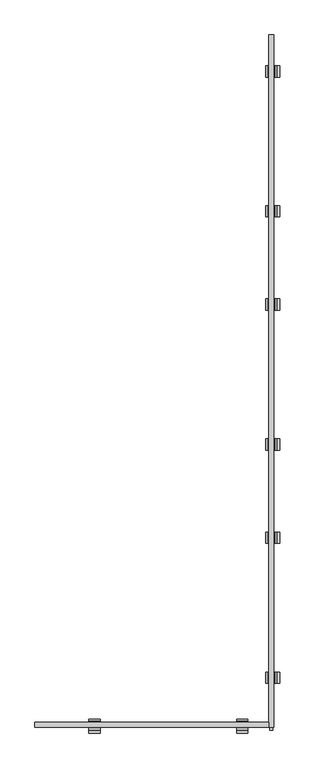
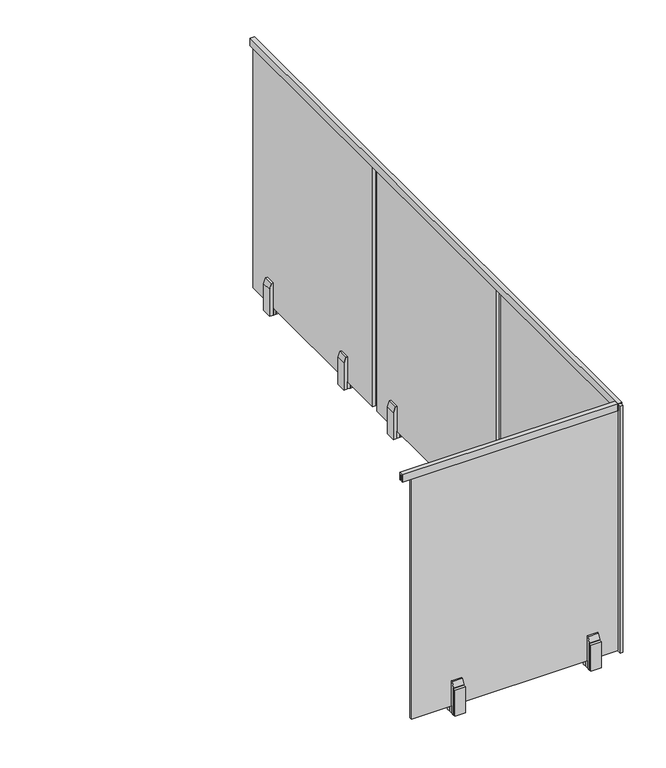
"""IFC4 building model written with IfcOpenShell, lengths in millimetres: railing geometry, VIVA-VISIO-Glass-Steel Fascia Mount-Straight."""

from ifc_helpers import new_model, si_unit, frame, origin, place, context, project, spatial, polyline, outline, extrude, source, transform, mapped, element, save


def railing_009aba57(model_context):
    return source(origin(), model_context, "Body", "SweptSolid", [
        extrude(outline(polyline([(-11584.626208, 4140.2), (-11562.8973017, 4140.2), (-11562.8973017, 4102.1), (-11567.4117549, 4102.1), (-11567.4117549, 4136.39), (-11580.1117549, 4136.39), (-11580.1117549, 4102.1), (-11584.626208, 4102.1), (-11584.626208, 4140.2)])), frame((30452.8112561, 0.0, 0.0), z_axis=(1.0, 0.0, 0.0), x_axis=(0.0, 1.0, 0.0)), (0.0, 0.0, 1.0), 1055.9355469),
        extrude(outline(polyline([(4140.2, 31530.4757092), (4140.2, 31508.7468029), (4102.1, 31508.7468029), (4102.1, 31513.2612561), (4136.39, 31513.2612561), (4136.39, 31525.9612561), (4102.1, 31525.9612561), (4102.1, 31530.4757092), (4140.2, 31530.4757092)])), frame((0.0, -11584.626208, 0.0), z_axis=(0.0, 1.0, 0.0), x_axis=(0.0, 0.0, 1.0)), (0.0, 0.0, 1.0), 3122.3644531),
        extrude(outline(polyline([(31557.7112561, -8652.0404935), (31545.0112561, -8652.0404935), (31545.0112561, -8601.2404935), (31557.7112561, -8601.2404935), (31557.7112561, -8652.0404935)])), frame((0.0, 0.0, 2821.0268247), z_axis=(0.0, 0.0, 1.0), x_axis=(1.0, 0.0, 0.0)), (0.0, 0.0, 1.0), 135.5680003),
        extrude(outline(polyline([(31525.9612561, -8652.0404935), (31513.2612561, -8652.0404935), (31513.2612561, -8601.2404935), (31525.9612561, -8601.2404935), (31525.9612561, -8652.0404935)])), frame((0.0, 0.0, 2818.5202907), z_axis=(0.0, 0.0, 1.0), x_axis=(1.0, 0.0, 0.0)), (0.0, 0.0, 1.0), 36.5125),
        extrude(outline(polyline([(2818.5202907, 31545.0112561), (2958.2202907, 31545.0112561), (2985.2077907, 31533.8987561), (2985.2077907, 31525.9612561), (2818.5202907, 31525.9612561), (2818.5202907, 31545.0112561)])), frame((0.0, -8652.0404935, 0.0), z_axis=(0.0, 1.0, 0.0), x_axis=(0.0, 0.0, 1.0)), (0.0, 0.0, 1.0), 50.8),
        extrude(outline(polyline([(2818.5202907, 31494.2112561), (2818.5202907, 31513.2612561), (2985.2077907, 31513.2612561), (2985.2077907, 31505.3237561), (2958.2202907, 31494.2112561), (2818.5202907, 31494.2112561)])), frame((0.0, -8652.0404935, 0.0), z_axis=(0.0, 1.0, 0.0), x_axis=(0.0, 0.0, 1.0)), (0.0, 0.0, 1.0), 50.8),
        extrude(outline(polyline([(31525.9612561, -9495.8703749), (31513.2612561, -9495.8703749), (31513.2612561, -8479.8703749), (31525.9612561, -8479.8703749), (31525.9612561, -9495.8703749)])), frame((0.0, 0.0, 2855.0362), z_axis=(0.0, 0.0, 1.0), x_axis=(1.0, 0.0, 0.0)), (0.0, 0.0, 1.0), 1279.7663),
        extrude(outline(polyline([(31557.7112561, -9283.2304935), (31545.0112561, -9283.2304935), (31545.0112561, -9232.4304935), (31557.7112561, -9232.4304935), (31557.7112561, -9283.2304935)])), frame((0.0, 0.0, 2821.0268247), z_axis=(0.0, 0.0, 1.0), x_axis=(1.0, 0.0, 0.0)), (0.0, 0.0, 1.0), 135.5680003),
        extrude(outline(polyline([(31525.9612561, -9283.2304935), (31513.2612561, -9283.2304935), (31513.2612561, -9232.4304935), (31525.9612561, -9232.4304935), (31525.9612561, -9283.2304935)])), frame((0.0, 0.0, 2818.5202907), z_axis=(0.0, 0.0, 1.0), x_axis=(1.0, 0.0, 0.0)), (0.0, 0.0, 1.0), 36.5125),
        extrude(outline(polyline([(2818.5202907, 31545.0112561), (2958.2202907, 31545.0112561), (2985.2077907, 31533.8987561), (2985.2077907, 31525.9612561), (2818.5202907, 31525.9612561), (2818.5202907, 31545.0112561)])), frame((0.0, -9283.2304935, 0.0), z_axis=(0.0, 1.0, 0.0), x_axis=(0.0, 0.0, 1.0)), (0.0, 0.0, 1.0), 50.8),
        extrude(outline(polyline([(2818.5202907, 31494.2112561), (2818.5202907, 31513.2612561), (2985.2077907, 31513.2612561), (2985.2077907, 31505.3237561), (2958.2202907, 31494.2112561), (2818.5202907, 31494.2112561)])), frame((0.0, -9283.2304935, 0.0), z_axis=(0.0, 1.0, 0.0), x_axis=(0.0, 0.0, 1.0)), (0.0, 0.0, 1.0), 50.8),
        extrude(outline(polyline([(31557.7112561, -9704.0238268), (31545.0112561, -9704.0238268), (31545.0112561, -9653.2238268), (31557.7112561, -9653.2238268), (31557.7112561, -9704.0238268)])), frame((0.0, 0.0, 2821.0268247), z_axis=(0.0, 0.0, 1.0), x_axis=(1.0, 0.0, 0.0)), (0.0, 0.0, 1.0), 135.5680003),
        extrude(outline(polyline([(31525.9612561, -9704.0238268), (31513.2612561, -9704.0238268), (31513.2612561, -9653.2238268), (31525.9612561, -9653.2238268), (31525.9612561, -9704.0238268)])), frame((0.0, 0.0, 2818.5202907), z_axis=(0.0, 0.0, 1.0), x_axis=(1.0, 0.0, 0.0)), (0.0, 0.0, 1.0), 36.5125),
        extrude(outline(polyline([(2818.5202907, 31545.0112561), (2958.2202907, 31545.0112561), (2985.2077907, 31533.8987561), (2985.2077907, 31525.9612561), (2818.5202907, 31525.9612561), (2818.5202907, 31545.0112561)])), frame((0.0, -9704.0238268, 0.0), z_axis=(0.0, 1.0, 0.0), x_axis=(0.0, 0.0, 1.0)), (0.0, 0.0, 1.0), 50.8),
        extrude(outline(polyline([(2818.5202907, 31494.2112561), (2818.5202907, 31513.2612561), (2985.2077907, 31513.2612561), (2985.2077907, 31505.3237561), (2958.2202907, 31494.2112561), (2818.5202907, 31494.2112561)])), frame((0.0, -9704.0238268, 0.0), z_axis=(0.0, 1.0, 0.0), x_axis=(0.0, 0.0, 1.0)), (0.0, 0.0, 1.0), 50.8),
        extrude(outline(polyline([(31525.9612561, -10547.8537083), (31513.2612561, -10547.8537083), (31513.2612561, -9531.8537083), (31525.9612561, -9531.8537083), (31525.9612561, -10547.8537083)])), frame((0.0, 0.0, 2855.0362), z_axis=(0.0, 0.0, 1.0), x_axis=(1.0, 0.0, 0.0)), (0.0, 0.0, 1.0), 1279.7663),
        extrude(outline(polyline([(31557.7112561, -10335.2138268), (31545.0112561, -10335.2138268), (31545.0112561, -10284.4138268), (31557.7112561, -10284.4138268), (31557.7112561, -10335.2138268)])), frame((0.0, 0.0, 2821.0268247), z_axis=(0.0, 0.0, 1.0), x_axis=(1.0, 0.0, 0.0)), (0.0, 0.0, 1.0), 135.5680003),
        extrude(outline(polyline([(31525.9612561, -10335.2138268), (31513.2612561, -10335.2138268), (31513.2612561, -10284.4138268), (31525.9612561, -10284.4138268), (31525.9612561, -10335.2138268)])), frame((0.0, 0.0, 2818.5202907), z_axis=(0.0, 0.0, 1.0), x_axis=(1.0, 0.0, 0.0)), (0.0, 0.0, 1.0), 36.5125),
        extrude(outline(polyline([(2818.5202907, 31545.0112561), (2958.2202907, 31545.0112561), (2985.2077907, 31533.8987561), (2985.2077907, 31525.9612561), (2818.5202907, 31525.9612561), (2818.5202907, 31545.0112561)])), frame((0.0, -10335.2138268, 0.0), z_axis=(0.0, 1.0, 0.0), x_axis=(0.0, 0.0, 1.0)), (0.0, 0.0, 1.0), 50.8),
        extrude(outline(polyline([(2818.5202907, 31494.2112561), (2818.5202907, 31513.2612561), (2985.2077907, 31513.2612561), (2985.2077907, 31505.3237561), (2958.2202907, 31494.2112561), (2818.5202907, 31494.2112561)])), frame((0.0, -10335.2138268, 0.0), z_axis=(0.0, 1.0, 0.0), x_axis=(0.0, 0.0, 1.0)), (0.0, 0.0, 1.0), 50.8),
        extrude(outline(polyline([(31557.7112561, -10756.0071601), (31545.0112561, -10756.0071601), (31545.0112561, -10705.2071601), (31557.7112561, -10705.2071601), (31557.7112561, -10756.0071601)])), frame((0.0, 0.0, 2821.0268247), z_axis=(0.0, 0.0, 1.0), x_axis=(1.0, 0.0, 0.0)), (0.0, 0.0, 1.0), 135.5680003),
        extrude(outline(polyline([(31525.9612561, -10756.0071601), (31513.2612561, -10756.0071601), (31513.2612561, -10705.2071601), (31525.9612561, -10705.2071601), (31525.9612561, -10756.0071601)])), frame((0.0, 0.0, 2818.5202907), z_axis=(0.0, 0.0, 1.0), x_axis=(1.0, 0.0, 0.0)), (0.0, 0.0, 1.0), 36.5125),
        extrude(outline(polyline([(2818.5202907, 31545.0112561), (2958.2202907, 31545.0112561), (2985.2077907, 31533.8987561), (2985.2077907, 31525.9612561), (2818.5202907, 31525.9612561), (2818.5202907, 31545.0112561)])), frame((0.0, -10756.0071601, 0.0), z_axis=(0.0, 1.0, 0.0), x_axis=(0.0, 0.0, 1.0)), (0.0, 0.0, 1.0), 50.8),
        extrude(outline(polyline([(2818.5202907, 31494.2112561), (2818.5202907, 31513.2612561), (2985.2077907, 31513.2612561), (2985.2077907, 31505.3237561), (2958.2202907, 31494.2112561), (2818.5202907, 31494.2112561)])), frame((0.0, -10756.0071601, 0.0), z_axis=(0.0, 1.0, 0.0), x_axis=(0.0, 0.0, 1.0)), (0.0, 0.0, 1.0), 50.8),
        extrude(outline(polyline([(31525.9612561, -11599.8370416), (31513.2612561, -11599.8370416), (31513.2612561, -10583.8370416), (31525.9612561, -10583.8370416), (31525.9612561, -11599.8370416)])), frame((0.0, 0.0, 2855.0362), z_axis=(0.0, 0.0, 1.0), x_axis=(1.0, 0.0, 0.0)), (0.0, 0.0, 1.0), 1279.7663),
        extrude(outline(polyline([(31557.7112561, -11387.1971601), (31545.0112561, -11387.1971601), (31545.0112561, -11336.3971601), (31557.7112561, -11336.3971601), (31557.7112561, -11387.1971601)])), frame((0.0, 0.0, 2821.0268247), z_axis=(0.0, 0.0, 1.0), x_axis=(1.0, 0.0, 0.0)), (0.0, 0.0, 1.0), 135.5680003),
        extrude(outline(polyline([(31525.9612561, -11387.1971601), (31513.2612561, -11387.1971601), (31513.2612561, -11336.3971601), (31525.9612561, -11336.3971601), (31525.9612561, -11387.1971601)])), frame((0.0, 0.0, 2818.5202907), z_axis=(0.0, 0.0, 1.0), x_axis=(1.0, 0.0, 0.0)), (0.0, 0.0, 1.0), 36.5125),
        extrude(outline(polyline([(2818.5202907, 31545.0112561), (2958.2202907, 31545.0112561), (2985.2077907, 31533.8987561), (2985.2077907, 31525.9612561), (2818.5202907, 31525.9612561), (2818.5202907, 31545.0112561)])), frame((0.0, -11387.1971601, 0.0), z_axis=(0.0, 1.0, 0.0), x_axis=(0.0, 0.0, 1.0)), (0.0, 0.0, 1.0), 50.8),
        extrude(outline(polyline([(2818.5202907, 31494.2112561), (2818.5202907, 31513.2612561), (2985.2077907, 31513.2612561), (2985.2077907, 31505.3237561), (2958.2202907, 31494.2112561), (2818.5202907, 31494.2112561)])), frame((0.0, -11387.1971601, 0.0), z_axis=(0.0, 1.0, 0.0), x_axis=(0.0, 0.0, 1.0)), (0.0, 0.0, 1.0), 50.8),
        extrude(outline(polyline([(31362.4291841, -11611.8617549), (31362.4291841, -11599.1617549), (31413.2291841, -11599.1617549), (31413.2291841, -11611.8617549), (31362.4291841, -11611.8617549)])), frame((0.0, 0.0, 2821.0268247), z_axis=(0.0, 0.0, 1.0), x_axis=(1.0, 0.0, 0.0)), (0.0, 0.0, 1.0), 135.5680003),
        extrude(outline(polyline([(31362.4291841, -11580.1117549), (31362.4291841, -11567.4117549), (31413.2291841, -11567.4117549), (31413.2291841, -11580.1117549), (31362.4291841, -11580.1117549)])), frame((0.0, 0.0, 2818.5202907), z_axis=(0.0, 0.0, 1.0), x_axis=(1.0, 0.0, 0.0)), (0.0, 0.0, 1.0), 36.5125),
        extrude(outline(polyline([(-11599.1617549, 2818.5202907), (-11599.1617549, 2958.2202907), (-11588.0492549, 2985.2077907), (-11580.1117549, 2985.2077907), (-11580.1117549, 2818.5202907), (-11599.1617549, 2818.5202907)])), frame((31362.4291841, 0.0, 0.0), z_axis=(1.0, 0.0, 0.0), x_axis=(0.0, 1.0, 0.0)), (0.0, 0.0, 1.0), 50.8),
        extrude(outline(polyline([(-11548.3617549, 2818.5202907), (-11567.4117549, 2818.5202907), (-11567.4117549, 2985.2077907), (-11559.4742549, 2985.2077907), (-11548.3617549, 2958.2202907), (-11548.3617549, 2818.5202907)])), frame((31362.4291841, 0.0, 0.0), z_axis=(1.0, 0.0, 0.0), x_axis=(0.0, 1.0, 0.0)), (0.0, 0.0, 1.0), 50.8),
        extrude(outline(polyline([(30500.8193027, -11580.1117549), (30500.8193027, -11567.4117549), (31516.8193027, -11567.4117549), (31516.8193027, -11580.1117549), (30500.8193027, -11580.1117549)])), frame((0.0, 0.0, 2855.0362), z_axis=(0.0, 0.0, 1.0), x_axis=(1.0, 0.0, 0.0)), (0.0, 0.0, 1.0), 1279.7663),
        extrude(outline(polyline([(30695.6791841, -11611.8617549), (30695.6791841, -11599.1617549), (30746.4791841, -11599.1617549), (30746.4791841, -11611.8617549), (30695.6791841, -11611.8617549)])), frame((0.0, 0.0, 2821.0268247), z_axis=(0.0, 0.0, 1.0), x_axis=(1.0, 0.0, 0.0)), (0.0, 0.0, 1.0), 135.5680003),
        extrude(outline(polyline([(30695.6791841, -11580.1117549), (30695.6791841, -11567.4117549), (30746.4791841, -11567.4117549), (30746.4791841, -11580.1117549), (30695.6791841, -11580.1117549)])), frame((0.0, 0.0, 2818.5202907), z_axis=(0.0, 0.0, 1.0), x_axis=(1.0, 0.0, 0.0)), (0.0, 0.0, 1.0), 36.5125),
        extrude(outline(polyline([(-11599.1617549, 2818.5202907), (-11599.1617549, 2958.2202907), (-11588.0492549, 2985.2077907), (-11580.1117549, 2985.2077907), (-11580.1117549, 2818.5202907), (-11599.1617549, 2818.5202907)])), frame((30695.6791841, 0.0, 0.0), z_axis=(1.0, 0.0, 0.0), x_axis=(0.0, 1.0, 0.0)), (0.0, 0.0, 1.0), 50.8),
        extrude(outline(polyline([(-11548.3617549, 2818.5202907), (-11567.4117549, 2818.5202907), (-11567.4117549, 2985.2077907), (-11559.4742549, 2985.2077907), (-11548.3617549, 2958.2202907), (-11548.3617549, 2818.5202907)])), frame((30695.6791841, 0.0, 0.0), z_axis=(1.0, 0.0, 0.0), x_axis=(0.0, 1.0, 0.0)), (0.0, 0.0, 1.0), 50.8),
    ])


if __name__ == "__main__":
    model = new_model("IFC4")
    model_context = context("Model", 3, world=origin())
    ifc_project = project(units=[si_unit("LENGTHUNIT", "METRE", prefix="MILLI")], contexts=[model_context])
    site = spatial("IfcSite", under=ifc_project)
    building = spatial("IfcBuilding", under=site)
    placement = place(None, origin())
    railing_shape = railing_009aba57(model_context)
    element("IfcRailing", 1, ObjectType="VIVA-VISIO-Glass-Steel Fascia Mount-Straight", at=placement, inside=building, context=model_context, shape_type="MappedRepresentation", body=[
        mapped(railing_shape, transform((0.0, 0.0, 0.0), x_axis=(1.0, 0.0, 0.0), y_axis=(0.0, 1.0, 0.0), z_axis=(0.0, 0.0, 1.0))),
    ])
    save(model, "model.ifc")
